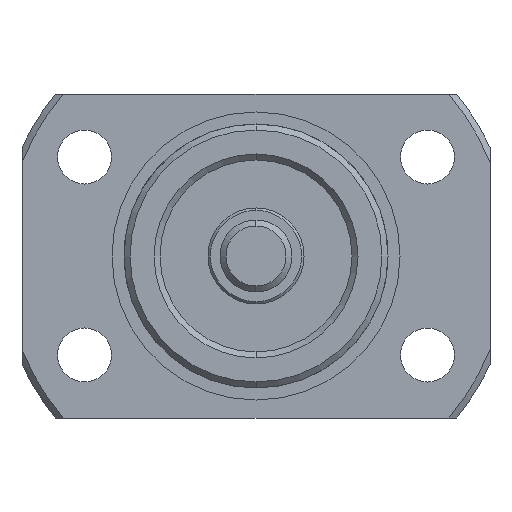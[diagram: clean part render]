
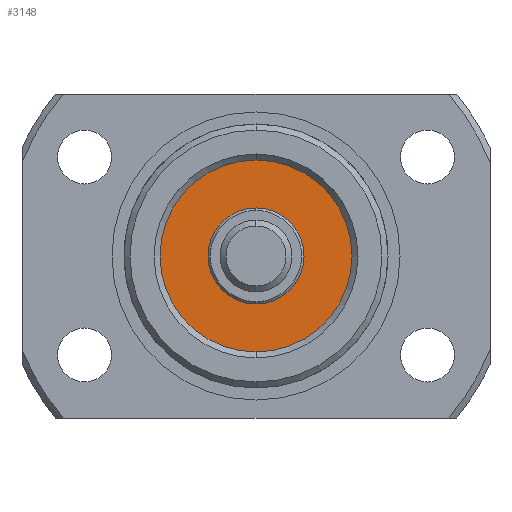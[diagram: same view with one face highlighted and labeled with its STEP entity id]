
A CAD part, left-side view. The second image highlights one B-rep face of the part: STEP entity #3148.
In plain terms, the highlighted planar face has unit normal (-1, 0, 0).
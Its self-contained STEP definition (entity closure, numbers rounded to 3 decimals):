
#135 = AXIS2_PLACEMENT_3D ( 'NONE', #1615, #1522, #1473 ) ;
#290 = AXIS2_PLACEMENT_3D ( 'NONE', #2279, #2278, #2277 ) ;
#1042 = CARTESIAN_POINT ( 'NONE',  ( -35.5, 0., -4. ) ) ;
#1473 = DIRECTION ( 'NONE',  ( 0., 0., 1. ) ) ;
#1476 = PLANE ( 'NONE',  #135 ) ;
#1522 = DIRECTION ( 'NONE',  ( -1., 0., 0. ) ) ;
#1615 = CARTESIAN_POINT ( 'NONE',  ( -35.5, 0., 0. ) ) ;
#2089 = ORIENTED_EDGE ( 'NONE', *, *, #4550, .T. ) ;
#2172 = ORIENTED_EDGE ( 'NONE', *, *, #4599, .F. ) ;
#2186 = ORIENTED_EDGE ( 'NONE', *, *, #4423, .F. ) ;
#2230 = ORIENTED_EDGE ( 'NONE', *, *, #2772, .T. ) ;
#2277 = DIRECTION ( 'NONE',  ( 0., 0., 1. ) ) ;
#2278 = DIRECTION ( 'NONE',  ( -1., 0., 0. ) ) ;
#2279 = CARTESIAN_POINT ( 'NONE',  ( -35.5, 0., 0. ) ) ;
#2368 = VERTEX_POINT ( 'NONE', #1042 ) ;
#2499 = FACE_OUTER_BOUND ( 'NONE', #5271, .T. ) ;
#2512 = FACE_BOUND ( 'NONE', #5580, .T. ) ;
#2682 = CIRCLE ( 'NONE', #2794, 8. ) ;
#2733 = CIRCLE ( 'NONE', #2821, 4. ) ;
#2772 = EDGE_CURVE ( 'NONE', #5556, #5448, #5250, .T. ) ;
#2794 = AXIS2_PLACEMENT_3D ( 'NONE', #6206, #6205, #6204 ) ;
#2821 = AXIS2_PLACEMENT_3D ( 'NONE', #4265, #4266, #4267 ) ;
#3046 = DIRECTION ( 'NONE',  ( 0., 0., 1. ) ) ;
#3047 = DIRECTION ( 'NONE',  ( -1., 0., 0. ) ) ;
#3076 = CARTESIAN_POINT ( 'NONE',  ( -35.5, 0., 0. ) ) ;
#3148 = ADVANCED_FACE ( 'NONE', ( #2512, #2499 ), #1476, .T. ) ;
#3369 = CIRCLE ( 'NONE', #290, 4. ) ;
#4265 = CARTESIAN_POINT ( 'NONE',  ( -35.5, 0., 0. ) ) ;
#4266 = DIRECTION ( 'NONE',  ( -1., 0., 0. ) ) ;
#4267 = DIRECTION ( 'NONE',  ( 0., 0., 1. ) ) ;
#4423 = EDGE_CURVE ( 'NONE', #5490, #2368, #3369, .T. ) ;
#4550 = EDGE_CURVE ( 'NONE', #5448, #5556, #2682, .T. ) ;
#4599 = EDGE_CURVE ( 'NONE', #2368, #5490, #2733, .T. ) ;
#4721 = CARTESIAN_POINT ( 'NONE',  ( -35.5, 0., 8. ) ) ;
#4745 = CARTESIAN_POINT ( 'NONE',  ( -35.5, 0., 4. ) ) ;
#4775 = CARTESIAN_POINT ( 'NONE',  ( -35.5, 0., -8. ) ) ;
#5250 = CIRCLE ( 'NONE', #5733, 8. ) ;
#5271 = EDGE_LOOP ( 'NONE', ( #2230, #2089 ) ) ;
#5448 = VERTEX_POINT ( 'NONE', #4721 ) ;
#5490 = VERTEX_POINT ( 'NONE', #4745 ) ;
#5556 = VERTEX_POINT ( 'NONE', #4775 ) ;
#5580 = EDGE_LOOP ( 'NONE', ( #2172, #2186 ) ) ;
#5733 = AXIS2_PLACEMENT_3D ( 'NONE', #3076, #3047, #3046 ) ;
#6204 = DIRECTION ( 'NONE',  ( 0., 0., 1. ) ) ;
#6205 = DIRECTION ( 'NONE',  ( -1., 0., 0. ) ) ;
#6206 = CARTESIAN_POINT ( 'NONE',  ( -35.5, 0., 0. ) ) ;
